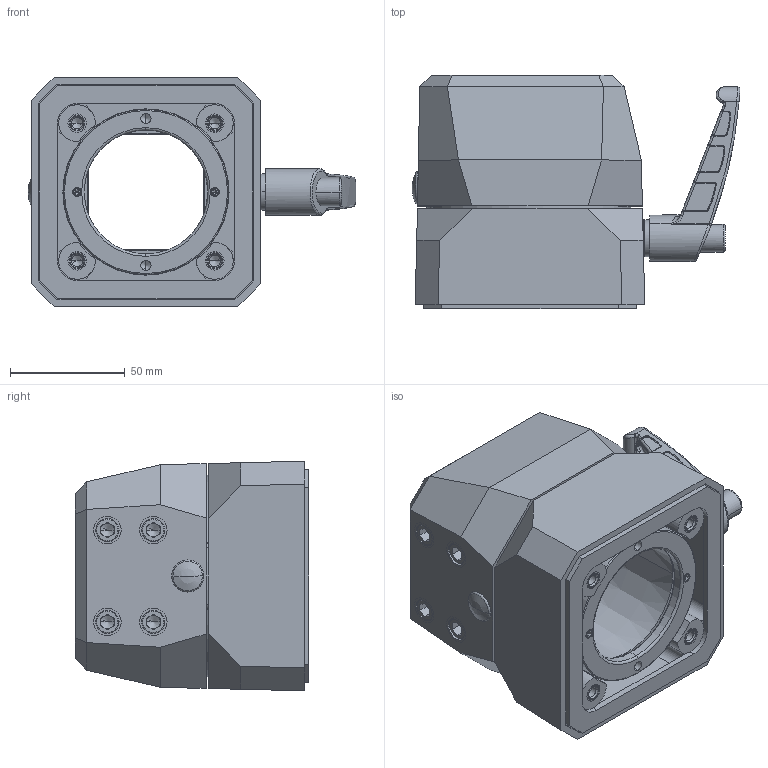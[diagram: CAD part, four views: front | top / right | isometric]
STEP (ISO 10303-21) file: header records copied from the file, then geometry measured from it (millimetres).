
FILE_DESCRIPTION((''),'2;1');
FILE_NAME('1016701000_ASM','2024-12-05T13:23:11',('Stephanie.Hoppe'),(''),'CREO PARAMETRIC BY PTC INC, 2022124','CREO PARAMETRIC BY PTC INC, 2022124','');
FILE_SCHEMA(('AUTOMOTIVE_DESIGN { 1 0 10303 214 1 1 1 1 }'));
Products named in the file (16): 9620239000; 9502257000; 9411111000_EINB_AF0; 9324131000_001_AF1; 9324131000_002; 9324131000_AF0_ASM; 9620236000_ASM; 9502259000; 9281850000; 9231631000; 9263051000; 9263034000; 9372035000; 9231015000; 9251044000; 1016701000_ASM
Assembly tree (22 placements, depth 4):
  1016701000_ASM
    9620239000
    9502257000
    9411111000_EINB_AF0
    9620236000_ASM
      9324131000_AF0_ASM
        9324131000_001_AF1
        9324131000_002  x4
    9502259000
    9281850000
    9231631000
    9263051000  x2
    9263034000  x4
    9372035000
    9231015000
    9251044000
Bounding box: 142.77 x 101.7 x 100 mm (x, y, z)
Volume: 521872.1 mm3; surface area: 164359.8 mm2
Topology: 20 solids, 39 shells, 1399 faces, 3324 edges, 1990 vertices
Faces by surface type: plane 750, cylinder 273, bspline 135, cone 126, torus 97, sphere 18
Entity records: 63251 total; most frequent: CARTESIAN_POINT 15426, DIRECTION 5697, ORIENTED_EDGE 5492, PRESENTATION_STYLE_ASSIGNMENT 3009, STYLED_ITEM 3004, CURVE_STYLE 2870, EDGE_CURVE 2770, AXIS2_PLACEMENT_3D 2155
